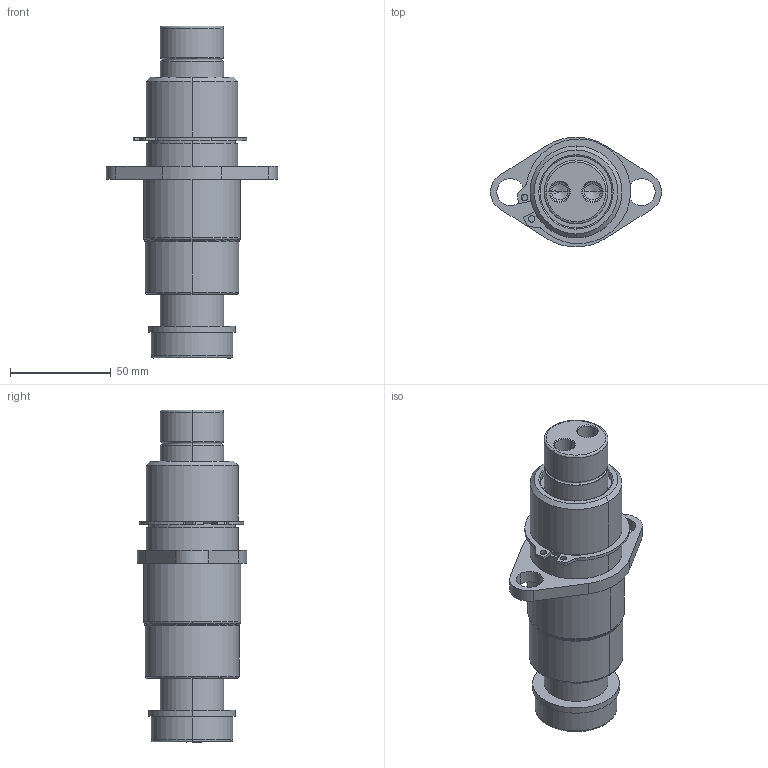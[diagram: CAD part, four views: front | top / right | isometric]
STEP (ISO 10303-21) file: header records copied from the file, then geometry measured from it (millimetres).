
FILE_DESCRIPTION (( 'STEP AP214' ), '1' );
FILE_NAME ('GK122-N4-2-TB-E-XXX.STEP', '2020-09-21T18:53:56', ( '' ), ( '' ), 'SwSTEP 2.0', 'SolidWorks 2017', '' );
FILE_SCHEMA (( 'AUTOMOTIVE_DESIGN' ));
Length unit declared in the file: inch
Products named in the file (7): RetainingRing; GK1.25-N4-2-TB-Base; GK122-N4-2-TB-E-XXX; GK122-E-XXX-GuidePin; GK122-DampeningWasher
Assembly tree (6 placements, depth 3):
  GK122-N4-2-TB-E-XXX
    GK1.25-N4-2-TB-Base
      GK1.25-N4-2-TB-Base
      RetainingRing
    GK122-E-XXX-GuidePin
      GK122-E-XXX-GuidePin
      GK122-DampeningWasher
Bounding box: 85.09 x 54.52 x 165.1 mm (x, y, z)
Volume: 238965 mm3; surface area: 57146.2 mm2
Topology: 4 solids, 4 shells, 125 faces, 287 edges, 174 vertices
Faces by surface type: cylinder 59, plane 24, cone 22, bspline 20
Entity records: 4512 total; most frequent: CARTESIAN_POINT 1225, DIRECTION 667, ORIENTED_EDGE 566, EDGE_CURVE 283, AXIS2_PLACEMENT_3D 278, VERTEX_POINT 174, CIRCLE 162, EDGE_LOOP 145
